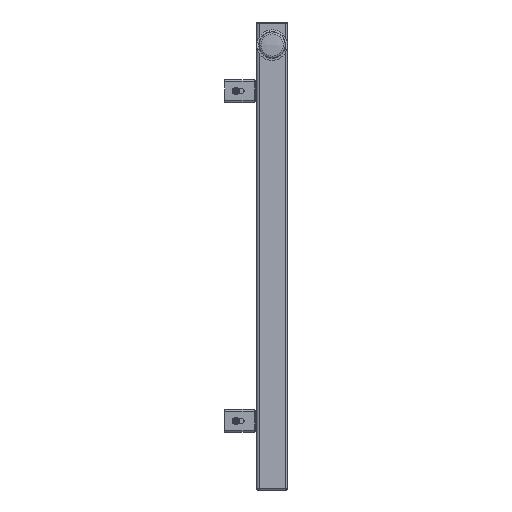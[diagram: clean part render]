
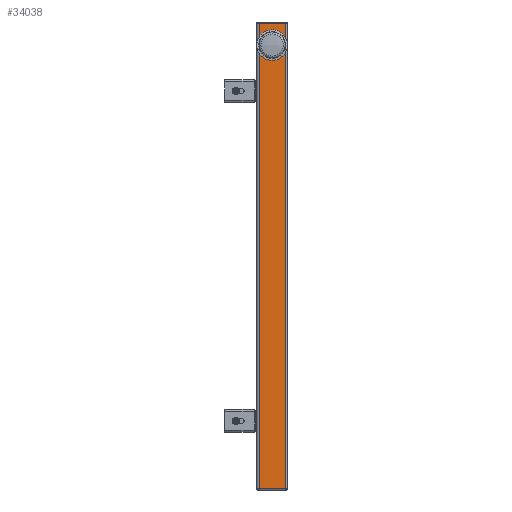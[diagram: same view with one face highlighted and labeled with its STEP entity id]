
A CAD part, left-side view. The second image highlights one B-rep face of the part: STEP entity #34038.
In plain terms, the highlighted planar face has unit normal (-1, 0, 0).
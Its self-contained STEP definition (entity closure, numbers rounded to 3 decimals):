
#33415=CARTESIAN_POINT('',(-40.,-17.0,1.5));
#33416=VERTEX_POINT('',#33415);
#33459=CARTESIAN_POINT('',(-40.,17.0,1.5));
#33460=VERTEX_POINT('',#33459);
#33477=CARTESIAN_POINT('',(-40.,-17.0,1.5));
#33478=DIRECTION('',(0.0,1.0,0.0));
#33479=VECTOR('',#33478,34.0);
#33480=LINE('',#33477,#33479);
#33481=EDGE_CURVE('',#33416,#33460,#33480,.T.);
#33985=CARTESIAN_POINT('',(-40.,17.0,608.5));
#33986=VERTEX_POINT('',#33985);
#33987=CARTESIAN_POINT('',(-40.,17.0,1.5));
#33988=DIRECTION('',(0.0,0.0,1.0));
#33989=VECTOR('',#33988,607.0);
#33990=LINE('',#33987,#33989);
#33991=EDGE_CURVE('',#33460,#33986,#33990,.T.);
#34004=CARTESIAN_POINT('',(-40.,-17.0,0.0));
#34005=DIRECTION('',(-1.0,0.0,0.0));
#34006=DIRECTION('',(0.0,0.0,1.0));
#34007=AXIS2_PLACEMENT_3D('',#34004,#34005,#34006);
#34008=PLANE('',#34007);
#34009=ORIENTED_EDGE('',*,*,#33481,.F.);
#34010=CARTESIAN_POINT('',(-40.,-17.0,608.5));
#34011=VERTEX_POINT('',#34010);
#34012=CARTESIAN_POINT('',(-40.,-17.0,1.5));
#34013=DIRECTION('',(0.0,0.0,1.0));
#34014=VECTOR('',#34013,607.0);
#34015=LINE('',#34012,#34014);
#34016=EDGE_CURVE('',#33416,#34011,#34015,.T.);
#34017=ORIENTED_EDGE('',*,*,#34016,.T.);
#34018=CARTESIAN_POINT('',(-40.,17.,608.5));
#34019=DIRECTION('',(0.0,-1.0,0.0));
#34020=VECTOR('',#34019,34.0);
#34021=LINE('',#34018,#34020);
#34022=EDGE_CURVE('',#33986,#34011,#34021,.T.);
#34023=ORIENTED_EDGE('',*,*,#34022,.F.);
#34024=ORIENTED_EDGE('',*,*,#33991,.F.);
#34025=EDGE_LOOP('',(#34009,#34017,#34023,#34024));
#34026=FACE_OUTER_BOUND('',#34025,.T.);
#34027=CARTESIAN_POINT('',(-40.,0.,595.0));
#34028=VERTEX_POINT('',#34027);
#34029=CARTESIAN_POINT('',(-40.,0.0,580.0));
#34030=DIRECTION('',(1.0,0.0,0.0));
#34031=DIRECTION('',(0.0,0.0,-1.0));
#34032=AXIS2_PLACEMENT_3D('',#34029,#34030,#34031);
#34033=CIRCLE('',#34032,15.0);
#34034=EDGE_CURVE('',#34028,#34028,#34033,.T.);
#34035=ORIENTED_EDGE('',*,*,#34034,.T.);
#34036=EDGE_LOOP('',(#34035));
#34037=FACE_BOUND('',#34036,.T.);
#34038=ADVANCED_FACE('',(#34026,#34037),#34008,.T.);
